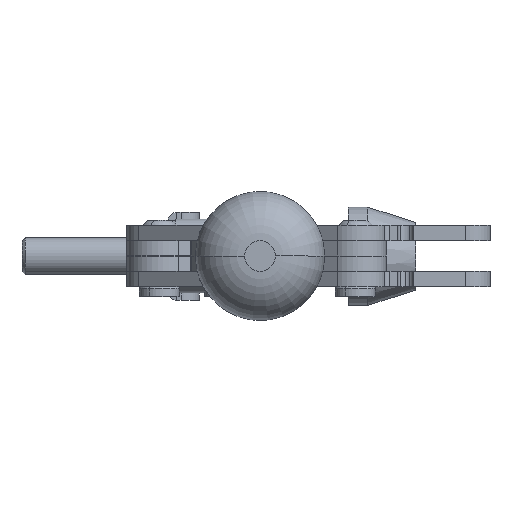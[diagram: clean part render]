
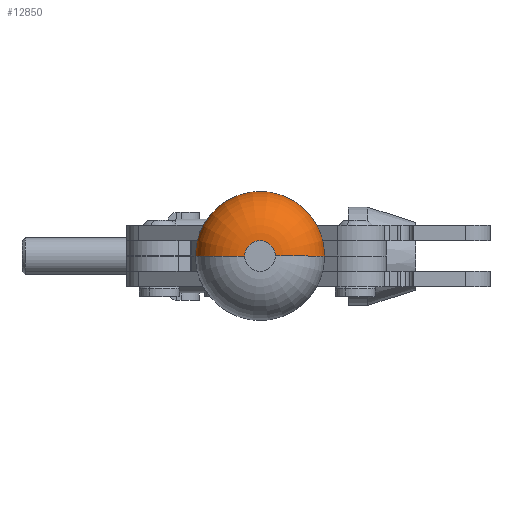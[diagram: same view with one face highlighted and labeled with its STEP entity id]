
A CAD part, left-side view. The second image highlights one B-rep face of the part: STEP entity #12850.
In plain terms, the highlighted toroidal (fillet/blend) face has major radius 2.495 mm and minor radius 8 mm.
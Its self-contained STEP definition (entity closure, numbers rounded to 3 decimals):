
#1707 = DIRECTION ( 'NONE',  ( 1., 0., 0. ) ) ;
#1796 = VERTEX_POINT ( 'NONE', #14715 ) ;
#1981 = CIRCLE ( 'NONE', #22284, 8. ) ;
#2463 = CIRCLE ( 'NONE', #23335, 10.491 ) ;
#2526 = AXIS2_PLACEMENT_3D ( 'NONE', #16269, #16142, #1707 ) ;
#3121 = DIRECTION ( 'NONE',  ( 0., 0., 1. ) ) ;
#3487 = CARTESIAN_POINT ( 'NONE',  ( 0., 0., 8.251 ) ) ;
#3718 = ORIENTED_EDGE ( 'NONE', *, *, #18081, .F. ) ;
#4343 = DIRECTION ( 'NONE',  ( 1., 0., 0. ) ) ;
#4711 = DIRECTION ( 'NONE',  ( -1., 0., 0. ) ) ;
#6060 = EDGE_CURVE ( 'NONE', #19347, #13808, #24097, .T. ) ;
#6565 = CARTESIAN_POINT ( 'NONE',  ( -2.495, 0., 8. ) ) ;
#6581 = ORIENTED_EDGE ( 'NONE', *, *, #6060, .T. ) ;
#8168 = CARTESIAN_POINT ( 'NONE',  ( 0., 0., 8. ) ) ;
#8326 = AXIS2_PLACEMENT_3D ( 'NONE', #8168, #19758, #4343 ) ;
#9730 = ORIENTED_EDGE ( 'NONE', *, *, #23290, .F. ) ;
#12850 = ADVANCED_FACE ( 'NONE', ( #17662 ), #15805, .T. ) ;
#13171 = CIRCLE ( 'NONE', #2526, 2.495 ) ;
#13808 = VERTEX_POINT ( 'NONE', #21656 ) ;
#14051 = CARTESIAN_POINT ( 'NONE',  ( 2.495, 0., 8. ) ) ;
#14073 = EDGE_CURVE ( 'NONE', #23917, #13808, #2463, .T. ) ;
#14095 = DIRECTION ( 'NONE',  ( 0., 1., 0. ) ) ;
#14715 = CARTESIAN_POINT ( 'NONE',  ( -2.495, 0., 0. ) ) ;
#15805 = TOROIDAL_SURFACE ( 'NONE', #8326, 2.495, 8. ) ;
#16142 = DIRECTION ( 'NONE',  ( 0., 0., -1. ) ) ;
#16269 = CARTESIAN_POINT ( 'NONE',  ( 0., 0., 0. ) ) ;
#17611 = DIRECTION ( 'NONE',  ( 0., -1., 0. ) ) ;
#17662 = FACE_OUTER_BOUND ( 'NONE', #20280, .T. ) ;
#18081 = EDGE_CURVE ( 'NONE', #19347, #1796, #13171, .T. ) ;
#18791 = ORIENTED_EDGE ( 'NONE', *, *, #14073, .F. ) ;
#18799 = CARTESIAN_POINT ( 'NONE',  ( 2.495, 0., 0. ) ) ;
#19347 = VERTEX_POINT ( 'NONE', #18799 ) ;
#19758 = DIRECTION ( 'NONE',  ( 0., 0., 1. ) ) ;
#19953 = DIRECTION ( 'NONE',  ( 0., 0., -1. ) ) ;
#20280 = EDGE_LOOP ( 'NONE', ( #9730, #3718, #6581, #18791 ) ) ;
#21411 = CARTESIAN_POINT ( 'NONE',  ( -10.491, 0., 8.251 ) ) ;
#21656 = CARTESIAN_POINT ( 'NONE',  ( 10.491, 0., 8.251 ) ) ;
#21729 = DIRECTION ( 'NONE',  ( 1., 0., 0. ) ) ;
#22284 = AXIS2_PLACEMENT_3D ( 'NONE', #6565, #14095, #4711 ) ;
#22906 = AXIS2_PLACEMENT_3D ( 'NONE', #14051, #17611, #19953 ) ;
#23290 = EDGE_CURVE ( 'NONE', #1796, #23917, #1981, .T. ) ;
#23335 = AXIS2_PLACEMENT_3D ( 'NONE', #3487, #3121, #21729 ) ;
#23917 = VERTEX_POINT ( 'NONE', #21411 ) ;
#24097 = CIRCLE ( 'NONE', #22906, 8. ) ;
